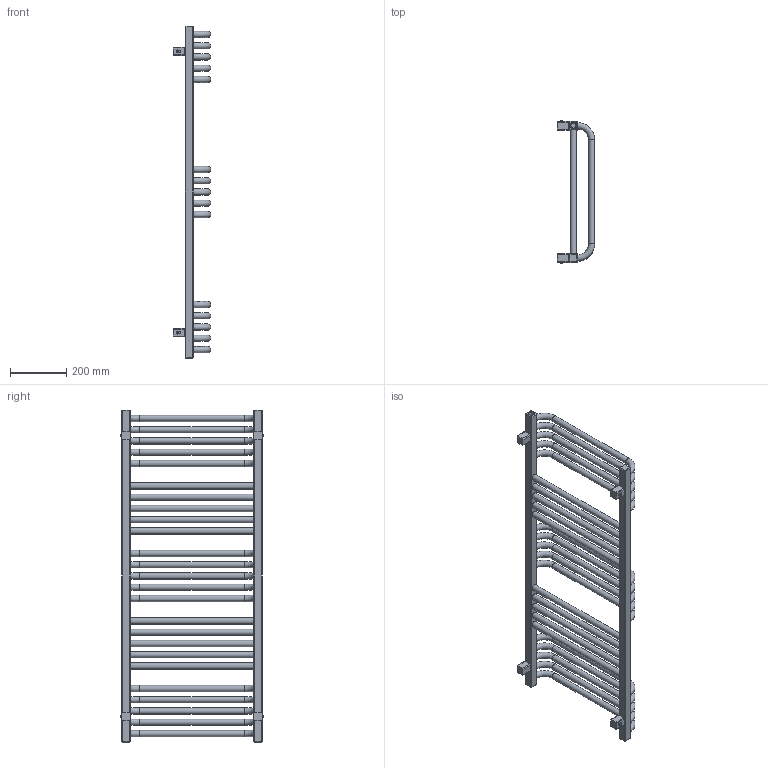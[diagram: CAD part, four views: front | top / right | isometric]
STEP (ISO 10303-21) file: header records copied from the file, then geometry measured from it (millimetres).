
FILE_DESCRIPTION((''),'2;1');
FILE_NAME('Z:\R\G\P\RGP097 - Grzejnik Poll 2012 (ALFA)\Work\Inventor\Marketing\Modele AutoCAD\PLL-1180-500 S5.stp','2012-06-29T12:45:27',('KurKa'),(''),'Autodesk Inventor 2012','Autodesk Inventor 2012','');
FILE_SCHEMA(('AUTOMOTIVE_DESIGN { 1 0 10303 214 1 1 1 1 }'));
Length unit declared in the file: millimetre
Products named in the file (3): PLL-1180-500 S5; MMT42_marketing
Assembly tree (5 placements, depth 2):
  PLL-1180-500 S5
    PLL-1180-500 S5
    MMT42_marketing  x4
Bounding box: 133 x 506 x 1180 mm (x, y, z)
Volume: 6913193.7 mm3; surface area: 1136645 mm2
Topology: 5 solids, 5 shells, 296 faces, 694 edges, 421 vertices
Faces by surface type: plane 115, cylinder 100, torus 38, cone 27, sphere 16
Full cylindrical faces by diameter (mm): 4.509 x4, 12 x4, 18.631 x3, 22 x25
Entity records: 4285 total; most frequent: DIRECTION 796, CARTESIAN_POINT 697, ORIENTED_EDGE 576, AXIS2_PLACEMENT_3D 343, EDGE_CURVE 288, EDGE_LOOP 284, VERTEX_POINT 204, CIRCLE 174
